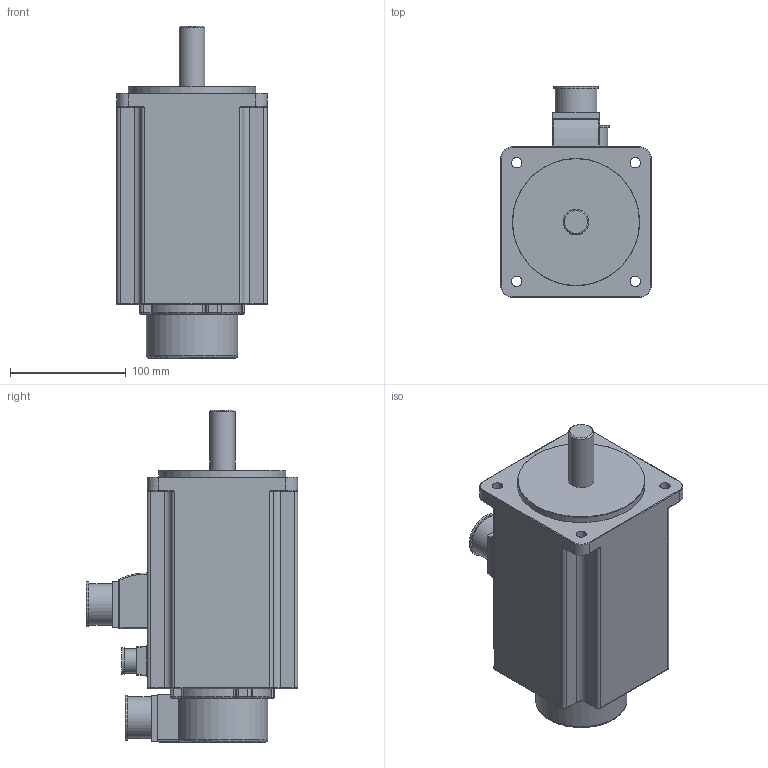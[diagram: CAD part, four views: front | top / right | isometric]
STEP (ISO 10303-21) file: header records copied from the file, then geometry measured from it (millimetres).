
FILE_DESCRIPTION(/* description */ (''),/* implementation_level */ '2;1');
FILE_NAME(/* name */ '130MSL09620- FZ（9.55Nm、10Nm）.stp',/* time_stamp */ '2019-11-22T13:46:46+08:00',/* author */ (''),/* organization */ (''),/* preprocessor_version */ 'ST-DEVELOPER v16',/* originating_system */ 'SIEMENS PLM Software NX 10.0',/* authorisation */ '');
FILE_SCHEMA (('CONFIG_CONTROL_DESIGN'));
Length unit declared in the file: millimetre
Products named in the file (1): 130MSL09620- FZ（9.55Nm、10Nm）
Bounding box: 130 x 182.5 x 287 mm (x, y, z)
Volume: 3254343.3 mm3; surface area: 159286.7 mm2
Topology: 1 solids, 1 shells, 283 faces, 663 edges, 375 vertices
Faces by surface type: cylinder 131, plane 67, torus 55, sphere 16, bspline 12, cone 2
Full cylindrical faces by diameter (mm): 9 x4, 21 x1, 22 x1, 23 x1, 36 x2, 39 x2, 110 x1
Entity records: 8052 total; most frequent: CARTESIAN_POINT 1557, DIRECTION 1477, ORIENTED_EDGE 1250, EDGE_CURVE 625, AXIS2_PLACEMENT_3D 602, VERTEX_POINT 369, CIRCLE 320, EDGE_LOOP 316
